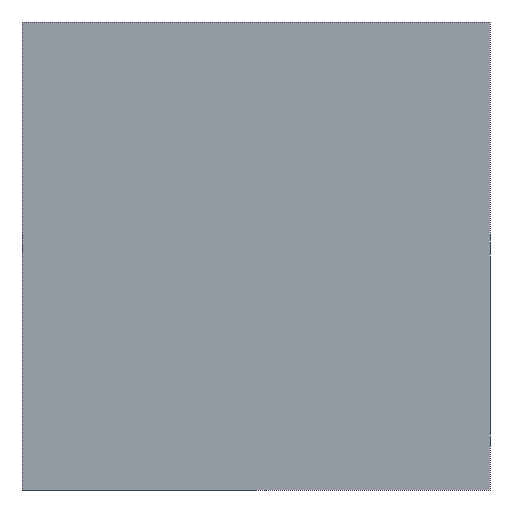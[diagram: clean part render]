
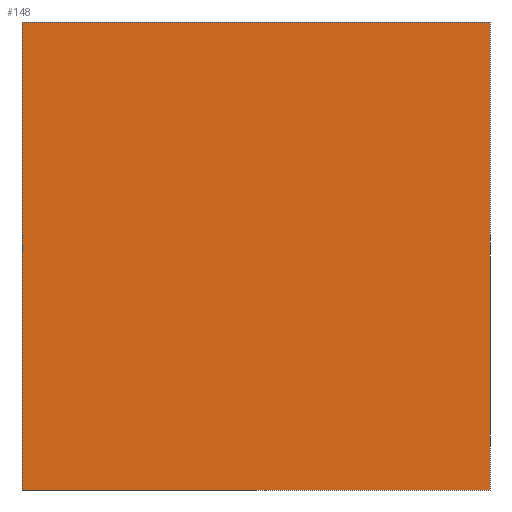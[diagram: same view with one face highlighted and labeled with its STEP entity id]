
A CAD part, left-side view. The second image highlights one B-rep face of the part: STEP entity #148.
In plain terms, the highlighted planar face has unit normal (-1, 0, 0).
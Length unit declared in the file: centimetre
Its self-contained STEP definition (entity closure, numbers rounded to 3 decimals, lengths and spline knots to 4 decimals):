
#44 = EDGE_CURVE ( 'NONE', #196, #467, #335, .T. ) ;
#51 = DIRECTION ( 'NONE',  ( 1., 0., 0. ) ) ;
#56 = CARTESIAN_POINT ( 'NONE',  ( 0., 0., 1000. ) ) ;
#60 = VECTOR ( 'NONE', #330, 100. ) ;
#64 = VECTOR ( 'NONE', #216, 100. ) ;
#95 = DIRECTION ( 'NONE',  ( 0., 0., -1. ) ) ;
#126 = AXIS2_PLACEMENT_3D ( 'NONE', #442, #51, #170 ) ;
#138 = CARTESIAN_POINT ( 'NONE',  ( 0., 0., 0. ) ) ;
#148 = ADVANCED_FACE ( 'NONE', ( #407 ), #443, .F. ) ;
#170 = DIRECTION ( 'NONE',  ( 0., 0., -1. ) ) ;
#196 = VERTEX_POINT ( 'NONE', #373 ) ;
#197 = VECTOR ( 'NONE', #298, 100. ) ;
#216 = DIRECTION ( 'NONE',  ( 0., -1., 0. ) ) ;
#224 = LINE ( 'NONE', #499, #64 ) ;
#225 = ORIENTED_EDGE ( 'NONE', *, *, #327, .F. ) ;
#237 = ORIENTED_EDGE ( 'NONE', *, *, #497, .F. ) ;
#251 = CARTESIAN_POINT ( 'NONE',  ( 0., 1000., 0. ) ) ;
#270 = VECTOR ( 'NONE', #95, 100. ) ;
#298 = DIRECTION ( 'NONE',  ( 0., 0., -1. ) ) ;
#318 = EDGE_LOOP ( 'NONE', ( #507, #225, #237, #355 ) ) ;
#327 = EDGE_CURVE ( 'NONE', #386, #467, #382, .T. ) ;
#330 = DIRECTION ( 'NONE',  ( 0., -1., 0. ) ) ;
#335 = LINE ( 'NONE', #251, #60 ) ;
#355 = ORIENTED_EDGE ( 'NONE', *, *, #406, .T. ) ;
#373 = CARTESIAN_POINT ( 'NONE',  ( 0., 1000., 0. ) ) ;
#382 = LINE ( 'NONE', #413, #270 ) ;
#386 = VERTEX_POINT ( 'NONE', #56 ) ;
#406 = EDGE_CURVE ( 'NONE', #469, #196, #462, .T. ) ;
#407 = FACE_OUTER_BOUND ( 'NONE', #318, .T. ) ;
#413 = CARTESIAN_POINT ( 'NONE',  ( 0., 0., 1000. ) ) ;
#442 = CARTESIAN_POINT ( 'NONE',  ( 0., 1000., 1000. ) ) ;
#443 = PLANE ( 'NONE',  #126 ) ;
#462 = LINE ( 'NONE', #491, #197 ) ;
#464 = CARTESIAN_POINT ( 'NONE',  ( 0., 1000., 1000. ) ) ;
#467 = VERTEX_POINT ( 'NONE', #138 ) ;
#469 = VERTEX_POINT ( 'NONE', #464 ) ;
#491 = CARTESIAN_POINT ( 'NONE',  ( 0., 1000., 1000. ) ) ;
#497 = EDGE_CURVE ( 'NONE', #469, #386, #224, .T. ) ;
#499 = CARTESIAN_POINT ( 'NONE',  ( 0., 1000., 1000. ) ) ;
#507 = ORIENTED_EDGE ( 'NONE', *, *, #44, .T. ) ;
